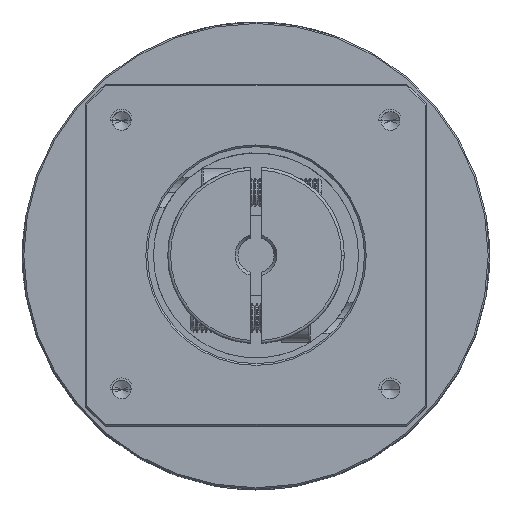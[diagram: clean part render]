
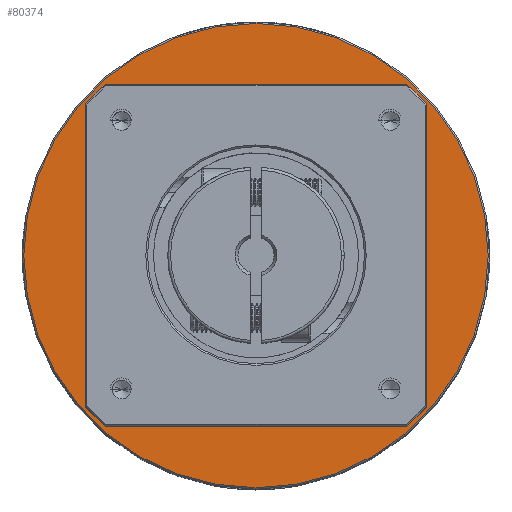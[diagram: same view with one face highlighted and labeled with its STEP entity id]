
A CAD part, top view. The second image highlights one B-rep face of the part: STEP entity #80374.
In plain terms, the highlighted planar face has unit normal (0, 0, 1).
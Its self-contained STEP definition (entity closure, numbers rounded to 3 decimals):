
#5643 = AXIS2_PLACEMENT_3D ( 'NONE', #105702, #50863, #114903 ) ;
#5715 = VERTEX_POINT ( 'NONE', #84520 ) ;
#6911 = ORIENTED_EDGE ( 'NONE', *, *, #40515, .F. ) ;
#13956 = FACE_OUTER_BOUND ( 'NONE', #91644, .T. ) ;
#18285 = CIRCLE ( 'NONE', #75332, 40.75 ) ;
#19883 = CIRCLE ( 'NONE', #116747, 30. ) ;
#27923 = DIRECTION ( 'NONE',  ( 0., 0., 1. ) ) ;
#33634 = AXIS2_PLACEMENT_3D ( 'NONE', #89038, #34096, #98242 ) ;
#34096 = DIRECTION ( 'NONE',  ( 0., 0., -1. ) ) ;
#34318 = DIRECTION ( 'NONE',  ( 0., 0., -1. ) ) ;
#40515 = EDGE_CURVE ( 'NONE', #115032, #5715, #83434, .T. ) ;
#41235 = FACE_BOUND ( 'NONE', #108741, .T. ) ;
#42212 = EDGE_CURVE ( 'NONE', #42677, #60341, #19883, .T. ) ;
#42677 = VERTEX_POINT ( 'NONE', #94430 ) ;
#44964 = CARTESIAN_POINT ( 'NONE',  ( 58.917, 7.846, 106.38 ) ) ;
#50863 = DIRECTION ( 'NONE',  ( 0., 0., -1. ) ) ;
#54190 = DIRECTION ( 'NONE',  ( -1., 0., 0. ) ) ;
#60341 = VERTEX_POINT ( 'NONE', #96363 ) ;
#75332 = AXIS2_PLACEMENT_3D ( 'NONE', #44964, #109020, #54190 ) ;
#80374 = ADVANCED_FACE ( 'NONE', ( #13956, #41235 ), #100951, .T. ) ;
#82666 = ORIENTED_EDGE ( 'NONE', *, *, #94077, .F. ) ;
#82952 = CARTESIAN_POINT ( 'NONE',  ( 58.917, 7.846, 106.38 ) ) ;
#83434 = CIRCLE ( 'NONE', #5643, 40.75 ) ;
#84520 = CARTESIAN_POINT ( 'NONE',  ( 99.667, 7.846, 106.38 ) ) ;
#89038 = CARTESIAN_POINT ( 'NONE',  ( 58.917, 7.846, 106.38 ) ) ;
#89262 = CARTESIAN_POINT ( 'NONE',  ( 58.917, 7.846, 106.38 ) ) ;
#91644 = EDGE_LOOP ( 'NONE', ( #6911, #82666 ) ) ;
#92133 = DIRECTION ( 'NONE',  ( 1., 0., 0. ) ) ;
#92379 = ORIENTED_EDGE ( 'NONE', *, *, #112011, .T. ) ;
#94077 = EDGE_CURVE ( 'NONE', #5715, #115032, #18285, .T. ) ;
#94411 = CARTESIAN_POINT ( 'NONE',  ( 18.167, 7.846, 106.38 ) ) ;
#94430 = CARTESIAN_POINT ( 'NONE',  ( 88.917, 7.846, 106.38 ) ) ;
#96363 = CARTESIAN_POINT ( 'NONE',  ( 28.917, 7.846, 106.38 ) ) ;
#98242 = DIRECTION ( 'NONE',  ( -1., 0., 0. ) ) ;
#98473 = DIRECTION ( 'NONE',  ( -1., 0., 0. ) ) ;
#100951 = PLANE ( 'NONE',  #101101 ) ;
#101101 = AXIS2_PLACEMENT_3D ( 'NONE', #82952, #27923, #92133 ) ;
#105702 = CARTESIAN_POINT ( 'NONE',  ( 58.917, 7.846, 106.38 ) ) ;
#106400 = CIRCLE ( 'NONE', #33634, 30. ) ;
#108741 = EDGE_LOOP ( 'NONE', ( #92379, #110396 ) ) ;
#109020 = DIRECTION ( 'NONE',  ( 0., 0., -1. ) ) ;
#110396 = ORIENTED_EDGE ( 'NONE', *, *, #42212, .T. ) ;
#112011 = EDGE_CURVE ( 'NONE', #60341, #42677, #106400, .T. ) ;
#114903 = DIRECTION ( 'NONE',  ( -1., 0., 0. ) ) ;
#115032 = VERTEX_POINT ( 'NONE', #94411 ) ;
#116747 = AXIS2_PLACEMENT_3D ( 'NONE', #89262, #34318, #98473 ) ;
